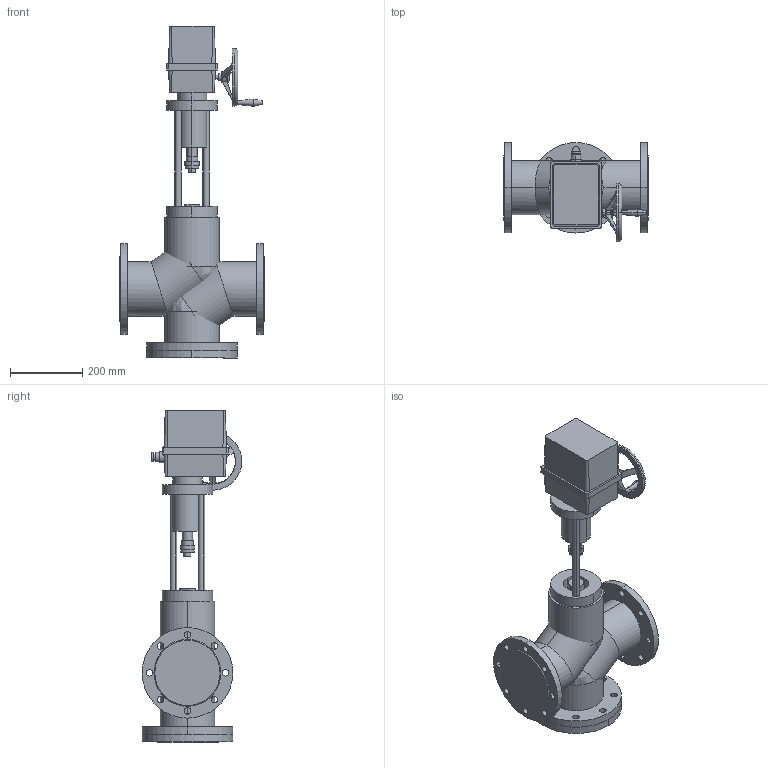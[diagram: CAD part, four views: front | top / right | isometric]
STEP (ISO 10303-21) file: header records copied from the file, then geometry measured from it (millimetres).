
FILE_DESCRIPTION(/* description */ (''),/* implementation_level */ '2;1');
FILE_NAME(/* name */ 'ТРК DN125 PN 1.6 МПа Regada ST1',/* time_stamp */ '2026-07-14T23:12:57+03:00',/* author */ (''),/* organization */ (''),/* preprocessor_version */ 'ST-DEVELOPER v20',/* originating_system */ '',/* authorisation */ '');
FILE_SCHEMA (('AP242_MANAGED_MODEL_BASED_3D_ENGINEERING_MIM_LF { 1 0 10303 442 1 1 4 }'));
Length unit declared in the file: millimetre
Products named in the file (14): TopLevelAssembly; Выдавливание; Модификатор; Модификатор_1; Выдавливание_
1; Выдавливание_
2; Вращение; Выдавливание_
3; Выдавливание_
4; Привод_Regada ST 1; Переход; Объемная геометрия 
присоединена; Полый Выдавливание; Объемная геометрия 
присоединена_1
Assembly tree (13 placements, depth 2):
  TopLevelAssembly
    Выдавливание
    Модификатор
    Модификатор_1
    Выдавливание_
1
    Выдавливание_
2
    Вращение
    Выдавливание_
3
    Выдавливание_
4
    Привод_Regada ST 1
    Переход
    Объемная геометрия 
присоединена
    Полый Выдавливание
    Объемная геометрия 
присоединена_1
Bounding box: 400 x 275 x 917 mm (x, y, z)
Volume: 24031647.4 mm3; surface area: 1610299.8 mm2
Topology: 28 solids, 28 shells, 274 faces, 594 edges, 364 vertices
Faces by surface type: cylinder 140, plane 102, bspline 28, cone 4
Entity records: 8704 total; most frequent: CARTESIAN_POINT 1977, DIRECTION 1432, ORIENTED_EDGE 1168, AXIS2_PLACEMENT_3D 599, EDGE_CURVE 584, VERTEX_POINT 364, EDGE_LOOP 334, CIRCLE 318
